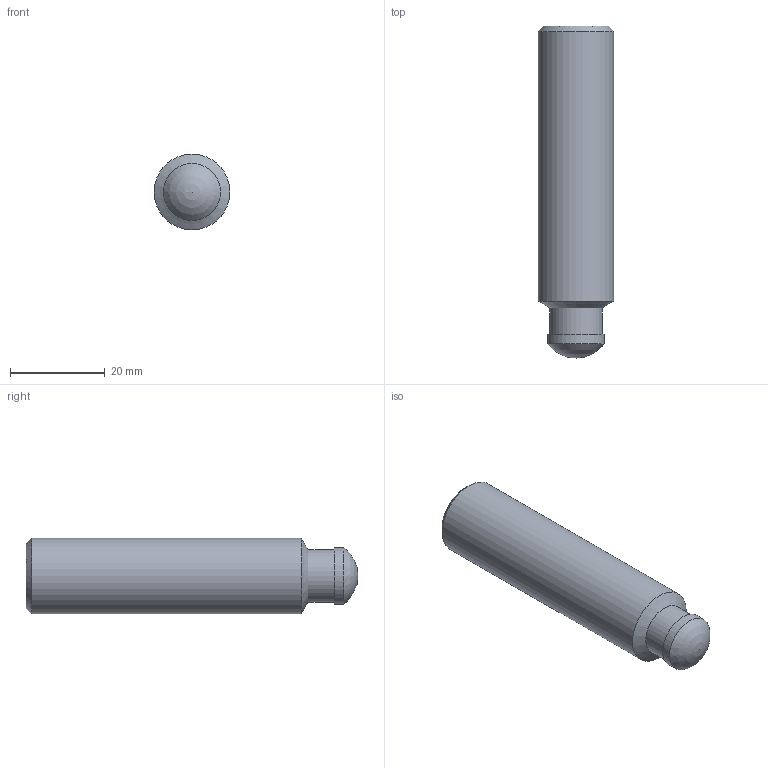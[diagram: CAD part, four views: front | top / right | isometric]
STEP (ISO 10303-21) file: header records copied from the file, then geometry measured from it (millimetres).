
FILE_DESCRIPTION( ( 'STEP AP203' ), '1' );
FILE_NAME( 'C:/Temp/Ganter_Step_05_03_2020/data/3_2/din6332/din6332/Grub screw DIN 6332-M16-70-SK.stp', '2020-03-13T05:16:23', ( 'License CC BY-ND 4.0' ), ( 'CADENAS' ), ' ', 'PARTsolutions', ' ' );
FILE_SCHEMA( ( 'CONFIG_CONTROL_DESIGN' ) );
Length unit declared in the file: millimetre
Products named in the file (1): _Grub screw DIN 6332-M16-70-SK
Bounding box: 16 x 70 x 16 mm (x, y, z)
Volume: 12523.3 mm3; surface area: 3752.4 mm2
Topology: 1 solids, 1 shells, 15 faces, 33 edges, 21 vertices
Faces by surface type: plane 9, cylinder 3, cone 2, sphere 1
Full cylindrical faces by diameter (mm): 11 x1, 12 x1, 16 x1
Entity records: 410 total; most frequent: DIRECTION 64, CARTESIAN_POINT 61, ORIENTED_EDGE 50, EDGE_CURVE 25, AXIS2_PLACEMENT_3D 23, EDGE_LOOP 22, VERTEX_POINT 20, FACE_OUTER_BOUND 18
